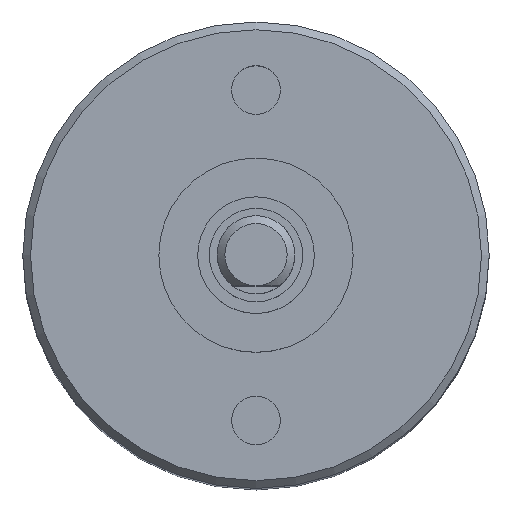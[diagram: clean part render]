
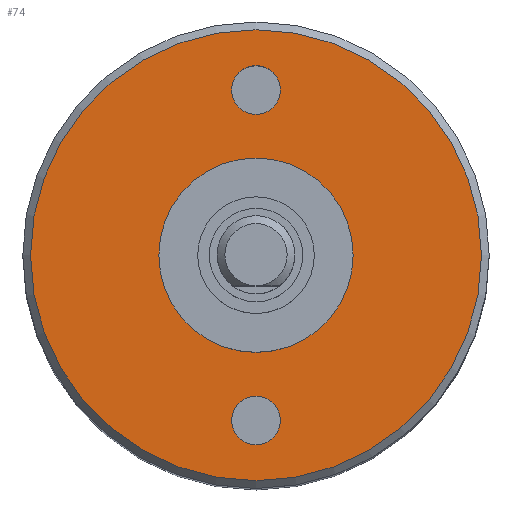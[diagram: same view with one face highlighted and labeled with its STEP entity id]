
A CAD part, top view. The second image highlights one B-rep face of the part: STEP entity #74.
In plain terms, the highlighted planar face has unit normal (0, 0, 1).
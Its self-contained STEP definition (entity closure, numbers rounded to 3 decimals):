
#53=PLANE('',#441);
#74=ADVANCED_FACE('',(#129,#130,#131,#132),#53,.T.);
#129=FACE_BOUND('',#187,.T.);
#130=FACE_BOUND('',#188,.T.);
#131=FACE_BOUND('',#189,.T.);
#132=FACE_BOUND('',#190,.T.);
#187=EDGE_LOOP('',(#252));
#188=EDGE_LOOP('',(#253));
#189=EDGE_LOOP('',(#254));
#190=EDGE_LOOP('',(#255));
#252=ORIENTED_EDGE('',*,*,#361,.T.);
#253=ORIENTED_EDGE('',*,*,#362,.T.);
#254=ORIENTED_EDGE('',*,*,#363,.T.);
#255=ORIENTED_EDGE('',*,*,#360,.T.);
#325=VERTEX_POINT('',#654);
#326=VERTEX_POINT('',#657);
#327=VERTEX_POINT('',#659);
#328=VERTEX_POINT('',#661);
#360=EDGE_CURVE('',#325,#325,#398,.T.);
#361=EDGE_CURVE('',#326,#326,#399,.T.);
#362=EDGE_CURVE('',#327,#327,#400,.T.);
#363=EDGE_CURVE('',#328,#328,#401,.T.);
#398=CIRCLE('',#436,2.5);
#399=CIRCLE('',#438,0.625);
#400=CIRCLE('',#439,0.625);
#401=CIRCLE('',#440,5.8);
#436=AXIS2_PLACEMENT_3D('',#653,#517,#518);
#438=AXIS2_PLACEMENT_3D('',#656,#521,#522);
#439=AXIS2_PLACEMENT_3D('',#658,#523,#524);
#440=AXIS2_PLACEMENT_3D('',#660,#525,#526);
#441=AXIS2_PLACEMENT_3D('',#662,#527,#528);
#517=DIRECTION('',(0.,0.,-1.));
#518=DIRECTION('',(1.,0.,0.));
#521=DIRECTION('',(0.,0.,-1.));
#522=DIRECTION('',(1.,0.,0.));
#523=DIRECTION('',(0.,0.,-1.));
#524=DIRECTION('',(-1.,0.,0.));
#525=DIRECTION('',(0.,0.,1.));
#526=DIRECTION('',(1.,0.,0.));
#527=DIRECTION('',(0.,0.,1.));
#528=DIRECTION('',(1.,0.,0.));
#653=CARTESIAN_POINT('',(0.,0.,0.));
#654=CARTESIAN_POINT('',(2.5,0.,0.));
#656=CARTESIAN_POINT('',(0.,-4.25,0.));
#657=CARTESIAN_POINT('',(0.625,-4.25,0.));
#658=CARTESIAN_POINT('',(0.,4.25,0.));
#659=CARTESIAN_POINT('',(-0.625,4.25,0.));
#660=CARTESIAN_POINT('',(0.,0.,0.));
#661=CARTESIAN_POINT('',(5.8,0.,0.));
#662=CARTESIAN_POINT('',(0.,0.,0.));
